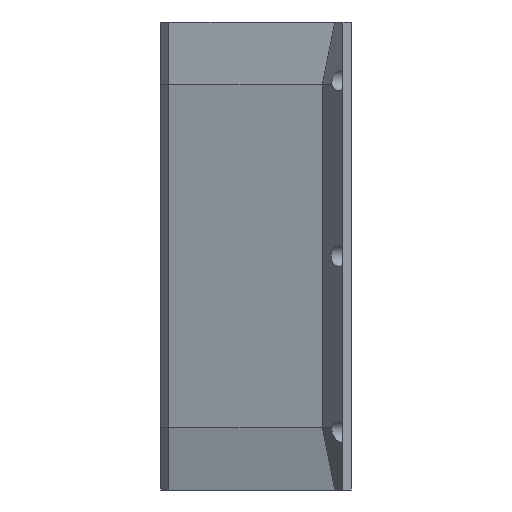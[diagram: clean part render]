
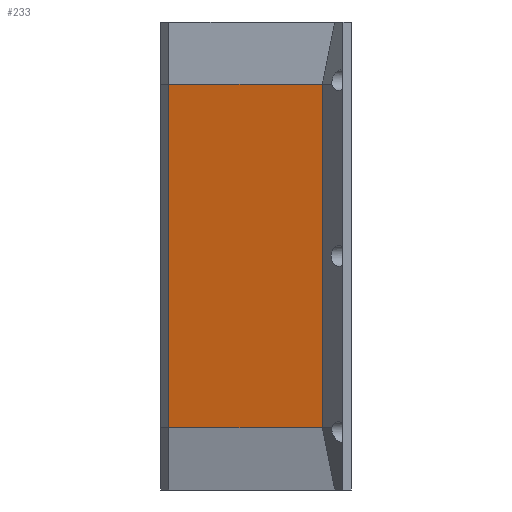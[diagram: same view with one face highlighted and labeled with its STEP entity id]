
A CAD part, left-side view. The second image highlights one B-rep face of the part: STEP entity #233.
In plain terms, the highlighted planar face has unit normal (-0.969, 0.248, 0).
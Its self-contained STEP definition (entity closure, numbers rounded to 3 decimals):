
#3 = CARTESIAN_POINT ( 'NONE',  ( 11., 7., -15. ) ) ;
#69 = DIRECTION ( 'NONE',  ( -0.034, -0.131, -0.991 ) ) ;
#87 = ORIENTED_EDGE ( 'NONE', *, *, #855, .T. ) ;
#112 = PLANE ( 'NONE',  #1549 ) ;
#115 = EDGE_CURVE ( 'NONE', #862, #1968, #1979, .T. ) ;
#137 = ORIENTED_EDGE ( 'NONE', *, *, #115, .T. ) ;
#160 = EDGE_CURVE ( 'NONE', #2222, #448, #1314, .T. ) ;
#205 = DIRECTION ( 'NONE',  ( 0.034, 0.131, -0.991 ) ) ;
#213 = CARTESIAN_POINT ( 'NONE',  ( 11., 7., -113. ) ) ;
#231 = DIRECTION ( 'NONE',  ( -0.248, -0.969, 0. ) ) ;
#233 = ADVANCED_FACE ( 'NONE', ( #2134 ), #112, .F. ) ;
#310 = EDGE_CURVE ( 'NONE', #394, #862, #2078, .T. ) ;
#345 = ORIENTED_EDGE ( 'NONE', *, *, #310, .T. ) ;
#394 = VERTEX_POINT ( 'NONE', #835 ) ;
#406 = VERTEX_POINT ( 'NONE', #1712 ) ;
#421 = DIRECTION ( 'NONE',  ( 0.248, 0.969, 0. ) ) ;
#448 = VERTEX_POINT ( 'NONE', #2196 ) ;
#517 = EDGE_CURVE ( 'NONE', #448, #394, #575, .T. ) ;
#552 = VECTOR ( 'NONE', #421, 1000. ) ;
#575 = LINE ( 'NONE', #1242, #982 ) ;
#579 = CARTESIAN_POINT ( 'NONE',  ( 23.59, 56.1, -6.916 ) ) ;
#639 = DIRECTION ( 'NONE',  ( 0., 0., -1. ) ) ;
#742 = CARTESIAN_POINT ( 'NONE',  ( 10.231, 4., -98. ) ) ;
#799 = DIRECTION ( 'NONE',  ( 0., 0., -1. ) ) ;
#835 = CARTESIAN_POINT ( 'NONE',  ( 20.503, 44.063, -15.008 ) ) ;
#855 = EDGE_CURVE ( 'NONE', #1968, #406, #1877, .T. ) ;
#862 = VERTEX_POINT ( 'NONE', #1617 ) ;
#923 = VECTOR ( 'NONE', #1427, 1000. ) ;
#982 = VECTOR ( 'NONE', #205, 1000. ) ;
#1037 = EDGE_CURVE ( 'NONE', #2222, #406, #2215, .T. ) ;
#1123 = CARTESIAN_POINT ( 'NONE',  ( 21., 46., -15. ) ) ;
#1152 = CARTESIAN_POINT ( 'NONE',  ( 11., 7., 0. ) ) ;
#1161 = CARTESIAN_POINT ( 'NONE',  ( 20.503, 44.063, -98. ) ) ;
#1242 = CARTESIAN_POINT ( 'NONE',  ( 19.83, 41.438, 4.851 ) ) ;
#1314 = LINE ( 'NONE', #1123, #552 ) ;
#1427 = DIRECTION ( 'NONE',  ( 0., 0., -1. ) ) ;
#1520 = CARTESIAN_POINT ( 'NONE',  ( 20.503, 44.062, -98. ) ) ;
#1542 = ORIENTED_EDGE ( 'NONE', *, *, #517, .T. ) ;
#1549 = AXIS2_PLACEMENT_3D ( 'NONE', #1152, #2026, #799 ) ;
#1617 = CARTESIAN_POINT ( 'NONE',  ( 20.503, 44.063, -97.992 ) ) ;
#1638 = VECTOR ( 'NONE', #639, 1000. ) ;
#1712 = CARTESIAN_POINT ( 'NONE',  ( 11., 7., -98. ) ) ;
#1768 = VECTOR ( 'NONE', #231, 1000. ) ;
#1837 = EDGE_LOOP ( 'NONE', ( #345, #137, #87, #2207, #2164, #1542 ) ) ;
#1877 = LINE ( 'NONE', #742, #1768 ) ;
#1968 = VERTEX_POINT ( 'NONE', #1520 ) ;
#1979 = LINE ( 'NONE', #579, #2156 ) ;
#2026 = DIRECTION ( 'NONE',  ( 0.969, -0.248, 0. ) ) ;
#2078 = LINE ( 'NONE', #1161, #1638 ) ;
#2134 = FACE_OUTER_BOUND ( 'NONE', #1837, .T. ) ;
#2156 = VECTOR ( 'NONE', #69, 1000. ) ;
#2164 = ORIENTED_EDGE ( 'NONE', *, *, #160, .T. ) ;
#2196 = CARTESIAN_POINT ( 'NONE',  ( 20.503, 44.062, -15. ) ) ;
#2207 = ORIENTED_EDGE ( 'NONE', *, *, #1037, .F. ) ;
#2215 = LINE ( 'NONE', #213, #923 ) ;
#2222 = VERTEX_POINT ( 'NONE', #3 ) ;
